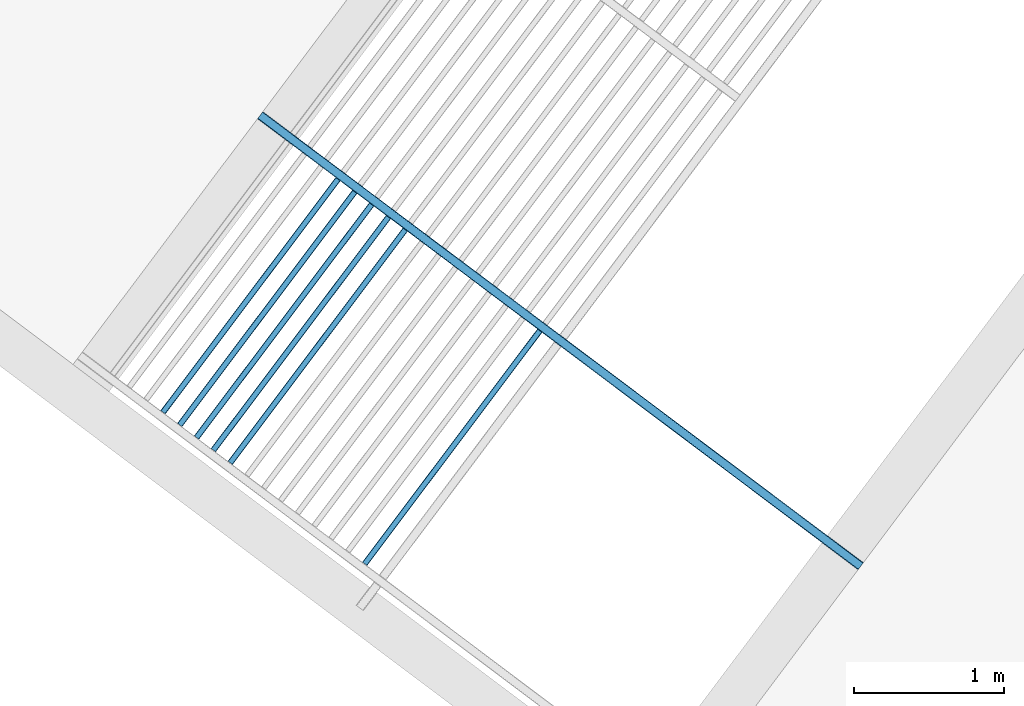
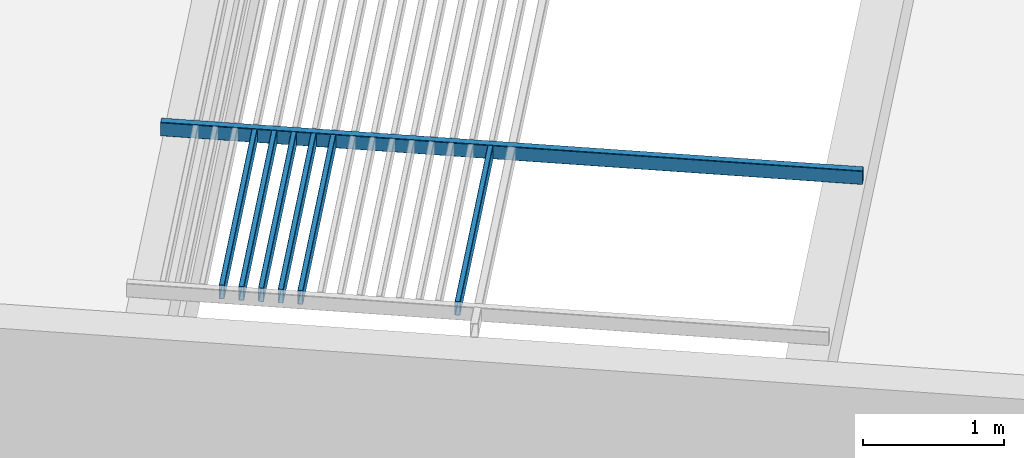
# One storey, part 6 of 95: 7 beams.
"""IFC2X3 building model written with IfcOpenShell, lengths in metres."""

from ifc_helpers import new_model, entity, si_unit, converted_unit, derived_unit, direction, frame, frame_2d, origin, place, context, subcontext, project, spatial, polyline, circle_curve, parameter, trimmed, segment, composite_curve, outline, extrude, material, type_object, element, save


model = new_model("IFC2X3")

# Units and contexts
model_context = context("Model", 3, precision=1e-05, world=origin(), true_north=direction((6.123031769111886e-17, 1.0)))
body_context = subcontext(model_context, "Body", "Model", "MODEL_VIEW")
ifc_project = project(units=[si_unit("LENGTHUNIT", "METRE"), si_unit("AREAUNIT", "SQUARE_METRE"), si_unit("VOLUMEUNIT", "CUBIC_METRE"), converted_unit("PLANEANGLEUNIT", "DEGREE", entity("IfcRatioMeasure", 0.017453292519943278), si_unit("PLANEANGLEUNIT", "RADIAN"), dimensions=[0, 0, 0, 0, 0, 0, 0]), si_unit("MASSUNIT", "GRAM", prefix="KILO"), derived_unit("MASSDENSITYUNIT", [(si_unit("MASSUNIT", "GRAM", prefix="KILO"), 1), (si_unit("LENGTHUNIT", "METRE"), -3)]), derived_unit("IONCONCENTRATIONUNIT", [(si_unit("MASSUNIT", "GRAM", prefix="KILO"), 1), (si_unit("LENGTHUNIT", "METRE"), -3)]), derived_unit("MOMENTOFINERTIAUNIT", [(si_unit("LENGTHUNIT", "METRE"), 4)]), si_unit("TIMEUNIT", "SECOND"), si_unit("FREQUENCYUNIT", "HERTZ"), si_unit("THERMODYNAMICTEMPERATUREUNIT", "DEGREE_CELSIUS"), derived_unit("THERMALTRANSMITTANCEUNIT", [(si_unit("MASSUNIT", "GRAM", prefix="KILO"), 1), (si_unit("THERMODYNAMICTEMPERATUREUNIT", "KELVIN"), -1), (si_unit("TIMEUNIT", "SECOND"), -3)]), derived_unit("THERMALCONDUCTANCEUNIT", [(si_unit("MASSUNIT", "GRAM", prefix="KILO"), 1), (si_unit("THERMODYNAMICTEMPERATUREUNIT", "KELVIN"), -1), (si_unit("TIMEUNIT", "SECOND"), -3), (si_unit("LENGTHUNIT", "METRE"), 1)]), derived_unit("VOLUMETRICFLOWRATEUNIT", [(si_unit("LENGTHUNIT", "METRE"), 3), (si_unit("TIMEUNIT", "SECOND"), -1)]), derived_unit("MASSFLOWRATEUNIT", [(si_unit("MASSUNIT", "GRAM", prefix="KILO"), 1), (si_unit("TIMEUNIT", "SECOND"), -1)]), derived_unit("ROTATIONALFREQUENCYUNIT", [(si_unit("TIMEUNIT", "SECOND"), -1)]), si_unit("ELECTRICCURRENTUNIT", "AMPERE"), si_unit("ELECTRICVOLTAGEUNIT", "VOLT"), si_unit("POWERUNIT", "WATT"), si_unit("FORCEUNIT", "NEWTON", prefix="KILO"), si_unit("ILLUMINANCEUNIT", "LUX"), si_unit("LUMINOUSFLUXUNIT", "LUMEN"), si_unit("LUMINOUSINTENSITYUNIT", "CANDELA"), derived_unit("USERDEFINED", [(si_unit("MASSUNIT", "GRAM", prefix="KILO"), -1), (si_unit("LENGTHUNIT", "METRE"), -2), (si_unit("TIMEUNIT", "SECOND"), 3), (si_unit("LUMINOUSFLUXUNIT", "LUMEN"), 1)]), derived_unit("USERDEFINED", [(si_unit("MASSUNIT", "GRAM", prefix="KILO"), 1), (si_unit("TIMEUNIT", "SECOND"), -3), (si_unit("LENGTHUNIT", "METRE"), 3), (si_unit("ELECTRICCURRENTUNIT", "AMPERE"), -2)]), derived_unit("SOUNDPOWERUNIT", [(si_unit("MASSUNIT", "GRAM", prefix="KILO"), 1), (si_unit("TIMEUNIT", "SECOND"), -3), (si_unit("LENGTHUNIT", "METRE"), 2)]), derived_unit("SOUNDPRESSUREUNIT", [(si_unit("MASSUNIT", "GRAM", prefix="KILO"), 1), (si_unit("LENGTHUNIT", "METRE"), -1), (si_unit("TIMEUNIT", "SECOND"), -2)]), derived_unit("LINEARVELOCITYUNIT", [(si_unit("LENGTHUNIT", "METRE"), 1), (si_unit("TIMEUNIT", "SECOND"), -1)]), si_unit("PRESSUREUNIT", "PASCAL"), derived_unit("USERDEFINED", [(si_unit("MASSUNIT", "GRAM", prefix="KILO"), 1), (si_unit("LENGTHUNIT", "METRE"), -2), (si_unit("TIMEUNIT", "SECOND"), -2)]), derived_unit("LINEARFORCEUNIT", [(si_unit("MASSUNIT", "GRAM", prefix="KILO"), 1), (si_unit("TIMEUNIT", "SECOND"), -2)]), derived_unit("PLANARFORCEUNIT", [(si_unit("MASSUNIT", "GRAM", prefix="KILO"), 1), (si_unit("LENGTHUNIT", "METRE"), -1), (si_unit("TIMEUNIT", "SECOND"), -2)]), derived_unit("SPECIFICHEATCAPACITYUNIT", [(si_unit("THERMODYNAMICTEMPERATUREUNIT", "KELVIN"), -1), (si_unit("LENGTHUNIT", "METRE"), 2), (si_unit("TIMEUNIT", "SECOND"), -2)]), derived_unit("HEATINGVALUEUNIT", [(si_unit("LENGTHUNIT", "METRE"), 2), (si_unit("TIMEUNIT", "SECOND"), -2)]), derived_unit("VAPORPERMEABILITYUNIT", [(si_unit("LENGTHUNIT", "METRE"), -1), (si_unit("TIMEUNIT", "SECOND"), 1)]), derived_unit("DYNAMICVISCOSITYUNIT", [(si_unit("MASSUNIT", "GRAM", prefix="KILO"), 1), (si_unit("TIMEUNIT", "SECOND"), -1), (si_unit("LENGTHUNIT", "METRE"), -1)]), derived_unit("THERMALEXPANSIONCOEFFICIENTUNIT", [(si_unit("THERMODYNAMICTEMPERATUREUNIT", "KELVIN"), -1)]), derived_unit("MODULUSOFELASTICITYUNIT", [(si_unit("MASSUNIT", "GRAM", prefix="KILO"), 1), (si_unit("LENGTHUNIT", "METRE"), -1), (si_unit("TIMEUNIT", "SECOND"), -2)]), derived_unit("ISOTHERMALMOISTURECAPACITYUNIT", [(si_unit("LENGTHUNIT", "METRE"), 3), (si_unit("MASSUNIT", "GRAM", prefix="KILO"), -1)]), derived_unit("MOISTUREDIFFUSIVITYUNIT", [(si_unit("TIMEUNIT", "SECOND"), -1), (si_unit("LENGTHUNIT", "METRE"), 2)])], contexts=[model_context])

# Site, building, storey
site_placement = place(None, origin())
site = spatial("IfcSite", under=ifc_project, at=site_placement, Name="Default", CompositionType="ELEMENT")
building_placement = place(site_placement, frame((0.0, 0.0, 235.0), z_axis=(0.0, 0.0, 1.0), x_axis=(-0.7996477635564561, 0.6004693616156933, 0.0)))
building = spatial("IfcBuilding", under=site, at=building_placement, CompositionType="ELEMENT")
storey_placement = place(building_placement, frame((0.0, 0.0, 3.400000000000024)))
storey = spatial("IfcBuildingStorey", under=building, at=storey_placement, Name="PC- Coberta STR", CompositionType="ELEMENT", Elevation=3.400000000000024)

# Beams
ifc_material = material(Name="_Acer- STR")
beam_type_1 = type_object("IfcBeamType", Name="STR- V- Acer- RHS- Rectangular- T1:120x60RHS", PredefinedType="NOTDEFINED")
beam_1_placement = place(storey_placement, frame((36.34514768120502, -20.446787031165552, 0.49840472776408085), z_axis=(0.0, 0.0, 1.0), x_axis=(-1.0, 0.0, 0.0)))
element("IfcBeam", 1, at=beam_1_placement, inside=storey, type_object=beam_type_1, material=ifc_material, Name="STR- V- Acer- RHS- Rectangular- T1:120x60RHS", ObjectType="STR- V- Acer- RHS- Rectangular- T1:120x60RHS", context=body_context, shape_type="SweptSolid", body=[
    extrude(outline(composite_curve([segment(trimmed(circle_curve(frame_2d((-0.021999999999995, -0.05200000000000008), x_axis=(1.0, 0.0)), 0.008), [parameter(180.0000000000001)], [parameter(269.99999999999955)], True, "PARAMETER"), True, "CONTINUOUS"), segment(polyline([(-0.021999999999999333, -0.05999999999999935), (0.021999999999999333, -0.05999999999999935)]), True, "CONTINUOUS"), segment(trimmed(circle_curve(frame_2d((0.022000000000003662, -0.05200000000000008), x_axis=(1.0, 0.0)), 0.008), [parameter(269.99999999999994)], [parameter(5.088887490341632e-14)], True, "PARAMETER"), True, "CONTINUOUS"), segment(polyline([(0.030000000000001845, -0.05199999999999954), (0.030000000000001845, 0.052000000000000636)]), True, "CONTINUOUS"), segment(trimmed(circle_curve(frame_2d((0.022000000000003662, 0.052000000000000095), x_axis=(1.0, 0.0)), 0.008), [parameter(359.99999999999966)], [parameter(89.99999999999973)], True, "PARAMETER"), True, "CONTINUOUS"), segment(polyline([(0.021999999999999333, 0.06000000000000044), (-0.021999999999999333, 0.06000000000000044)]), True, "CONTINUOUS"), segment(trimmed(circle_curve(frame_2d((-0.021999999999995, 0.052000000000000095), x_axis=(1.0, 0.0)), 0.008), [parameter(90.00000000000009)], [parameter(180.00000000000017)], True, "PARAMETER"), True, "CONTINUOUS"), segment(polyline([(-0.02999999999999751, 0.052000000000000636), (-0.02999999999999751, -0.05199999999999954)]), True, "CONTINUOUS")], self_intersect=False), holes=[composite_curve([segment(polyline([(0.021999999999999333, -0.056000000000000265), (-0.021999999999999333, -0.056000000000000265)]), True, "CONTINUOUS"), segment(trimmed(circle_curve(frame_2d((-0.021999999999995, -0.05200000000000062), x_axis=(1.0, 0.0)), 0.004), [parameter(179.99999999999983)], [parameter(269.9999999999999)], True, "PARAMETER"), False, "CONTINUOUS"), segment(polyline([(-0.02599999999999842, -0.05200000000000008), (-0.02599999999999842, 0.051999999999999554)]), True, "CONTINUOUS"), segment(trimmed(circle_curve(frame_2d((-0.021999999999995, 0.05199999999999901), x_axis=(1.0, 0.0)), 0.004), [parameter(90.00000000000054)], [parameter(180.00000000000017)], True, "PARAMETER"), False, "CONTINUOUS"), segment(polyline([(-0.021999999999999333, 0.055999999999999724), (0.021999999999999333, 0.055999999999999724)]), True, "CONTINUOUS"), segment(trimmed(circle_curve(frame_2d((0.022000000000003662, 0.05199999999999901), x_axis=(1.0, 0.0)), 0.004), [parameter(0.0)], [parameter(90.00000000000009)], True, "PARAMETER"), False, "CONTINUOUS"), segment(polyline([(0.02599999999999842, 0.051999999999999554), (0.02599999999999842, -0.05200000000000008)]), True, "CONTINUOUS"), segment(trimmed(circle_curve(frame_2d((0.022000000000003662, -0.05200000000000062), x_axis=(1.0, 0.0)), 0.004), [parameter(270.00000000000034)], [parameter(3.5622212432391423e-13)], True, "PARAMETER"), False, "CONTINUOUS")], self_intersect=False)]), frame((-5.0, -0.0315952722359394, 0.061595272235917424), z_axis=(1.0, 0.0, 0.0), x_axis=(0.0, -1.0, 0.0)), (0.0, 0.0, 1.0), 5.000000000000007),
])
beam_type_2 = type_object("IfcBeamType", Name="STR- V- Acer- RHS- Rectangular- T1:120x40RHS -", PredefinedType="NOTDEFINED")
beam_2_placement = place(storey_placement, frame((40.65355240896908, -20.385189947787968, 0.4984047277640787), z_axis=(0.0, 0.0, 1.0), x_axis=(0.0, -1.0, 0.0)))
element("IfcBeam", 2, at=beam_2_placement, inside=storey, type_object=beam_type_2, material=ifc_material, Name="STR- V- Acer- RHS- Rectangular- T1:120x40RHS -", ObjectType="STR- V- Acer- RHS- Rectangular- T1:120x40RHS -", context=body_context, shape_type="SweptSolid", body=[
    extrude(outline(composite_curve([segment(trimmed(circle_curve(frame_2d((-0.01400000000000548, -0.053999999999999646), x_axis=(1.0, 0.0)), 0.006), [parameter(180.0000000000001)], [parameter(269.99999999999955)], True, "PARAMETER"), True, "CONTINUOUS"), segment(polyline([(-0.01400000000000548, -0.0599999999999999), (0.013999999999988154, -0.0599999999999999)]), True, "CONTINUOUS"), segment(trimmed(circle_curve(frame_2d((0.013999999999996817, -0.053999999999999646), x_axis=(1.0, 0.0)), 0.006), [parameter(269.99999999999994)], [parameter(1.0177774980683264e-13)], True, "PARAMETER"), True, "CONTINUOUS"), segment(polyline([(0.019999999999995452, -0.053999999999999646), (0.019999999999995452, 0.05400000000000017)]), True, "CONTINUOUS"), segment(trimmed(circle_curve(frame_2d((0.013999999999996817, 0.05400000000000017), x_axis=(1.0, 0.0)), 0.006), [parameter(359.9999999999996)], [parameter(89.99999999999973)], True, "PARAMETER"), True, "CONTINUOUS"), segment(polyline([(0.013999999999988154, 0.059999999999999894), (-0.01400000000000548, 0.059999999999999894)]), True, "CONTINUOUS"), segment(trimmed(circle_curve(frame_2d((-0.01400000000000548, 0.05400000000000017), x_axis=(1.0, 0.0)), 0.006), [parameter(90.00000000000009)], [parameter(180.00000000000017)], True, "PARAMETER"), True, "CONTINUOUS"), segment(polyline([(-0.02000000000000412, 0.05400000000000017), (-0.02000000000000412, -0.05400000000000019)]), True, "CONTINUOUS")], self_intersect=False), holes=[composite_curve([segment(polyline([(0.013999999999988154, -0.05700000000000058), (-0.01400000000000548, -0.05700000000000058)]), True, "CONTINUOUS"), segment(trimmed(circle_curve(frame_2d((-0.01400000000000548, -0.05400000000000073), x_axis=(1.0, 0.0)), 0.003), [parameter(179.99999999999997)], [parameter(269.9999999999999)], True, "PARAMETER"), False, "CONTINUOUS"), segment(polyline([(-0.017000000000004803, -0.05400000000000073), (-0.017000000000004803, 0.05399999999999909)]), True, "CONTINUOUS"), segment(trimmed(circle_curve(frame_2d((-0.01400000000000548, 0.05399999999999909), x_axis=(1.0, 0.0)), 0.003), [parameter(90.00000000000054)], [parameter(180.0000000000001)], True, "PARAMETER"), False, "CONTINUOUS"), segment(polyline([(-0.01400000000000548, 0.056999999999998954), (0.013999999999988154, 0.056999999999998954)]), True, "CONTINUOUS"), segment(trimmed(circle_curve(frame_2d((0.013999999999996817, 0.05399999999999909), x_axis=(1.0, 0.0)), 0.003), [parameter(0.0)], [parameter(90.00000000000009)], True, "PARAMETER"), False, "CONTINUOUS"), segment(polyline([(0.016999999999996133, 0.05399999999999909), (0.016999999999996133, -0.05400000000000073)]), True, "CONTINUOUS"), segment(trimmed(circle_curve(frame_2d((0.013999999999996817, -0.05400000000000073), x_axis=(1.0, 0.0)), 0.003), [parameter(270.00000000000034)], [parameter(3.053332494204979e-13)], True, "PARAMETER"), False, "CONTINUOUS")], self_intersect=False)]), frame((-1.940000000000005, 0.02159527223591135, 0.06159527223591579), z_axis=(1.0, 0.0, 0.0), x_axis=(0.0, -1.0, 0.0)), (0.0, 0.0, 1.0), 1.9400000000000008),
])
beam_3_placement = place(storey_placement, frame((40.51355240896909, -20.385189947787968, 0.4984047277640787), z_axis=(0.0, 0.0, 1.0), x_axis=(0.0, -1.0, 0.0)))
element("IfcBeam", 3, at=beam_3_placement, inside=storey, type_object=beam_type_2, material=ifc_material, Name="STR- V- Acer- RHS- Rectangular- T1:120x40RHS -", ObjectType="STR- V- Acer- RHS- Rectangular- T1:120x40RHS -", context=body_context, shape_type="SweptSolid", body=[
    extrude(outline(composite_curve([segment(trimmed(circle_curve(frame_2d((-0.01399999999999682, -0.053999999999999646), x_axis=(1.0, 0.0)), 0.006), [parameter(180.0000000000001)], [parameter(269.99999999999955)], True, "PARAMETER"), True, "CONTINUOUS"), segment(polyline([(-0.01399999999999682, -0.0599999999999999), (0.013999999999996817, -0.0599999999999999)]), True, "CONTINUOUS"), segment(trimmed(circle_curve(frame_2d((0.014000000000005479, -0.053999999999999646), x_axis=(1.0, 0.0)), 0.006), [parameter(269.99999999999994)], [parameter(1.0177774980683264e-13)], True, "PARAMETER"), True, "CONTINUOUS"), segment(polyline([(0.020000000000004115, -0.053999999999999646), (0.020000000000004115, 0.05400000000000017)]), True, "CONTINUOUS"), segment(trimmed(circle_curve(frame_2d((0.014000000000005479, 0.05400000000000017), x_axis=(1.0, 0.0)), 0.006), [parameter(359.9999999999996)], [parameter(89.99999999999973)], True, "PARAMETER"), True, "CONTINUOUS"), segment(polyline([(0.013999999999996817, 0.059999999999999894), (-0.01399999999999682, 0.059999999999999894)]), True, "CONTINUOUS"), segment(trimmed(circle_curve(frame_2d((-0.01399999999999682, 0.05400000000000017), x_axis=(1.0, 0.0)), 0.006), [parameter(90.00000000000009)], [parameter(180.00000000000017)], True, "PARAMETER"), True, "CONTINUOUS"), segment(polyline([(-0.019999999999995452, 0.05400000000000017), (-0.019999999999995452, -0.05400000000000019)]), True, "CONTINUOUS")], self_intersect=False), holes=[composite_curve([segment(polyline([(0.013999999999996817, -0.05700000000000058), (-0.01399999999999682, -0.05700000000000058)]), True, "CONTINUOUS"), segment(trimmed(circle_curve(frame_2d((-0.01399999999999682, -0.05400000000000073), x_axis=(1.0, 0.0)), 0.003), [parameter(179.99999999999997)], [parameter(269.9999999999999)], True, "PARAMETER"), False, "CONTINUOUS"), segment(polyline([(-0.016999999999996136, -0.05400000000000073), (-0.016999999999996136, 0.05399999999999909)]), True, "CONTINUOUS"), segment(trimmed(circle_curve(frame_2d((-0.01399999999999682, 0.05399999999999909), x_axis=(1.0, 0.0)), 0.003), [parameter(90.00000000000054)], [parameter(180.0000000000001)], True, "PARAMETER"), False, "CONTINUOUS"), segment(polyline([(-0.01399999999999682, 0.056999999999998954), (0.013999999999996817, 0.056999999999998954)]), True, "CONTINUOUS"), segment(trimmed(circle_curve(frame_2d((0.014000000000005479, 0.05399999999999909), x_axis=(1.0, 0.0)), 0.003), [parameter(0.0)], [parameter(90.00000000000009)], True, "PARAMETER"), False, "CONTINUOUS"), segment(polyline([(0.017000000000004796, 0.05399999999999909), (0.017000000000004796, -0.05400000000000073)]), True, "CONTINUOUS"), segment(trimmed(circle_curve(frame_2d((0.014000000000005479, -0.05400000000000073), x_axis=(1.0, 0.0)), 0.003), [parameter(270.00000000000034)], [parameter(3.053332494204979e-13)], True, "PARAMETER"), False, "CONTINUOUS")], self_intersect=False)]), frame((-1.940000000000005, 0.02159527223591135, 0.06159527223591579), z_axis=(1.0, 0.0, 0.0), x_axis=(0.0, -1.0, 0.0)), (0.0, 0.0, 1.0), 1.9400000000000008),
])
beam_4_placement = place(storey_placement, frame((40.37355240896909, -20.385189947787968, 0.4984047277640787), z_axis=(0.0, 0.0, 1.0), x_axis=(0.0, -1.0, 0.0)))
element("IfcBeam", 4, at=beam_4_placement, inside=storey, type_object=beam_type_2, material=ifc_material, Name="STR- V- Acer- RHS- Rectangular- T1:120x40RHS -", ObjectType="STR- V- Acer- RHS- Rectangular- T1:120x40RHS -", context=body_context, shape_type="SweptSolid", body=[
    extrude(outline(composite_curve([segment(trimmed(circle_curve(frame_2d((-0.01400000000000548, -0.053999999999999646), x_axis=(1.0, 0.0)), 0.006), [parameter(180.0000000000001)], [parameter(269.99999999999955)], True, "PARAMETER"), True, "CONTINUOUS"), segment(polyline([(-0.01400000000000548, -0.0599999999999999), (0.013999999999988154, -0.0599999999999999)]), True, "CONTINUOUS"), segment(trimmed(circle_curve(frame_2d((0.013999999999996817, -0.053999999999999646), x_axis=(1.0, 0.0)), 0.006), [parameter(269.99999999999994)], [parameter(1.0177774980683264e-13)], True, "PARAMETER"), True, "CONTINUOUS"), segment(polyline([(0.019999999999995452, -0.053999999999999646), (0.019999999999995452, 0.05400000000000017)]), True, "CONTINUOUS"), segment(trimmed(circle_curve(frame_2d((0.013999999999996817, 0.05400000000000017), x_axis=(1.0, 0.0)), 0.006), [parameter(359.9999999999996)], [parameter(89.99999999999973)], True, "PARAMETER"), True, "CONTINUOUS"), segment(polyline([(0.013999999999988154, 0.059999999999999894), (-0.01400000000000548, 0.059999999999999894)]), True, "CONTINUOUS"), segment(trimmed(circle_curve(frame_2d((-0.01400000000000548, 0.05400000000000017), x_axis=(1.0, 0.0)), 0.006), [parameter(90.00000000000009)], [parameter(180.00000000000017)], True, "PARAMETER"), True, "CONTINUOUS"), segment(polyline([(-0.02000000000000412, 0.05400000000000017), (-0.02000000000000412, -0.05400000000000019)]), True, "CONTINUOUS")], self_intersect=False), holes=[composite_curve([segment(polyline([(0.013999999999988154, -0.05700000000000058), (-0.01400000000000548, -0.05700000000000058)]), True, "CONTINUOUS"), segment(trimmed(circle_curve(frame_2d((-0.01400000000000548, -0.05400000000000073), x_axis=(1.0, 0.0)), 0.003), [parameter(179.99999999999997)], [parameter(269.9999999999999)], True, "PARAMETER"), False, "CONTINUOUS"), segment(polyline([(-0.017000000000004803, -0.05400000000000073), (-0.017000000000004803, 0.05399999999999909)]), True, "CONTINUOUS"), segment(trimmed(circle_curve(frame_2d((-0.01400000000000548, 0.05399999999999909), x_axis=(1.0, 0.0)), 0.003), [parameter(90.00000000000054)], [parameter(180.0000000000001)], True, "PARAMETER"), False, "CONTINUOUS"), segment(polyline([(-0.01400000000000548, 0.056999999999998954), (0.013999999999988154, 0.056999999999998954)]), True, "CONTINUOUS"), segment(trimmed(circle_curve(frame_2d((0.013999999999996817, 0.05399999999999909), x_axis=(1.0, 0.0)), 0.003), [parameter(0.0)], [parameter(90.00000000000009)], True, "PARAMETER"), False, "CONTINUOUS"), segment(polyline([(0.016999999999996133, 0.05399999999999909), (0.016999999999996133, -0.05400000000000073)]), True, "CONTINUOUS"), segment(trimmed(circle_curve(frame_2d((0.013999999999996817, -0.05400000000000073), x_axis=(1.0, 0.0)), 0.003), [parameter(270.00000000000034)], [parameter(3.053332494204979e-13)], True, "PARAMETER"), False, "CONTINUOUS")], self_intersect=False)]), frame((-1.940000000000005, 0.02159527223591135, 0.06159527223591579), z_axis=(1.0, 0.0, 0.0), x_axis=(0.0, -1.0, 0.0)), (0.0, 0.0, 1.0), 1.9400000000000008),
])
beam_5_placement = place(storey_placement, frame((40.23355240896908, -20.385189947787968, 0.4984047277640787), z_axis=(0.0, 0.0, 1.0), x_axis=(0.0, -1.0, 0.0)))
element("IfcBeam", 5, at=beam_5_placement, inside=storey, type_object=beam_type_2, material=ifc_material, Name="STR- V- Acer- RHS- Rectangular- T1:120x40RHS -", ObjectType="STR- V- Acer- RHS- Rectangular- T1:120x40RHS -", context=body_context, shape_type="SweptSolid", body=[
    extrude(outline(composite_curve([segment(trimmed(circle_curve(frame_2d((-0.01400000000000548, -0.053999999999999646), x_axis=(1.0, 0.0)), 0.006), [parameter(180.0000000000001)], [parameter(269.99999999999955)], True, "PARAMETER"), True, "CONTINUOUS"), segment(polyline([(-0.01400000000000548, -0.0599999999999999), (0.013999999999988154, -0.0599999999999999)]), True, "CONTINUOUS"), segment(trimmed(circle_curve(frame_2d((0.013999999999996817, -0.053999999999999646), x_axis=(1.0, 0.0)), 0.006), [parameter(269.99999999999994)], [parameter(1.0177774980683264e-13)], True, "PARAMETER"), True, "CONTINUOUS"), segment(polyline([(0.019999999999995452, -0.053999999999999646), (0.019999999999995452, 0.05400000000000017)]), True, "CONTINUOUS"), segment(trimmed(circle_curve(frame_2d((0.013999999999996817, 0.05400000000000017), x_axis=(1.0, 0.0)), 0.006), [parameter(359.9999999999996)], [parameter(89.99999999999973)], True, "PARAMETER"), True, "CONTINUOUS"), segment(polyline([(0.013999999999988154, 0.059999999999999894), (-0.01400000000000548, 0.059999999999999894)]), True, "CONTINUOUS"), segment(trimmed(circle_curve(frame_2d((-0.01400000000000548, 0.05400000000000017), x_axis=(1.0, 0.0)), 0.006), [parameter(90.00000000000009)], [parameter(180.00000000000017)], True, "PARAMETER"), True, "CONTINUOUS"), segment(polyline([(-0.02000000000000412, 0.05400000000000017), (-0.02000000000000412, -0.05400000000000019)]), True, "CONTINUOUS")], self_intersect=False), holes=[composite_curve([segment(polyline([(0.013999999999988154, -0.05700000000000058), (-0.01400000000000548, -0.05700000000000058)]), True, "CONTINUOUS"), segment(trimmed(circle_curve(frame_2d((-0.01400000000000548, -0.05400000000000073), x_axis=(1.0, 0.0)), 0.003), [parameter(179.99999999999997)], [parameter(269.9999999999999)], True, "PARAMETER"), False, "CONTINUOUS"), segment(polyline([(-0.017000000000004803, -0.05400000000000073), (-0.017000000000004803, 0.05399999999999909)]), True, "CONTINUOUS"), segment(trimmed(circle_curve(frame_2d((-0.01400000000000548, 0.05399999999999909), x_axis=(1.0, 0.0)), 0.003), [parameter(90.00000000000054)], [parameter(180.0000000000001)], True, "PARAMETER"), False, "CONTINUOUS"), segment(polyline([(-0.01400000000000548, 0.056999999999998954), (0.013999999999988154, 0.056999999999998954)]), True, "CONTINUOUS"), segment(trimmed(circle_curve(frame_2d((0.013999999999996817, 0.05399999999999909), x_axis=(1.0, 0.0)), 0.003), [parameter(0.0)], [parameter(90.00000000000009)], True, "PARAMETER"), False, "CONTINUOUS"), segment(polyline([(0.016999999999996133, 0.05399999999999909), (0.016999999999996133, -0.05400000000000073)]), True, "CONTINUOUS"), segment(trimmed(circle_curve(frame_2d((0.013999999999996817, -0.05400000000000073), x_axis=(1.0, 0.0)), 0.003), [parameter(270.00000000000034)], [parameter(3.053332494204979e-13)], True, "PARAMETER"), False, "CONTINUOUS")], self_intersect=False)]), frame((-1.940000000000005, 0.02159527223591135, 0.06159527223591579), z_axis=(1.0, 0.0, 0.0), x_axis=(0.0, -1.0, 0.0)), (0.0, 0.0, 1.0), 1.9400000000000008),
])
beam_6_placement = place(storey_placement, frame((40.09355240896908, -20.385189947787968, 0.4984047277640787), z_axis=(0.0, 0.0, 1.0), x_axis=(0.0, -1.0, 0.0)))
element("IfcBeam", 6, at=beam_6_placement, inside=storey, type_object=beam_type_2, material=ifc_material, Name="STR- V- Acer- RHS- Rectangular- T1:120x40RHS -", ObjectType="STR- V- Acer- RHS- Rectangular- T1:120x40RHS -", context=body_context, shape_type="SweptSolid", body=[
    extrude(outline(composite_curve([segment(trimmed(circle_curve(frame_2d((-0.01400000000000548, -0.053999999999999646), x_axis=(1.0, 0.0)), 0.006), [parameter(180.0000000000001)], [parameter(269.99999999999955)], True, "PARAMETER"), True, "CONTINUOUS"), segment(polyline([(-0.01400000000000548, -0.0599999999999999), (0.013999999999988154, -0.0599999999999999)]), True, "CONTINUOUS"), segment(trimmed(circle_curve(frame_2d((0.013999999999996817, -0.053999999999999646), x_axis=(1.0, 0.0)), 0.006), [parameter(269.99999999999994)], [parameter(1.0177774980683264e-13)], True, "PARAMETER"), True, "CONTINUOUS"), segment(polyline([(0.019999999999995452, -0.053999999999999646), (0.019999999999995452, 0.05400000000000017)]), True, "CONTINUOUS"), segment(trimmed(circle_curve(frame_2d((0.013999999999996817, 0.05400000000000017), x_axis=(1.0, 0.0)), 0.006), [parameter(359.9999999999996)], [parameter(89.99999999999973)], True, "PARAMETER"), True, "CONTINUOUS"), segment(polyline([(0.013999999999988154, 0.059999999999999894), (-0.01400000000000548, 0.059999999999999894)]), True, "CONTINUOUS"), segment(trimmed(circle_curve(frame_2d((-0.01400000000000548, 0.05400000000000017), x_axis=(1.0, 0.0)), 0.006), [parameter(90.00000000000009)], [parameter(180.00000000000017)], True, "PARAMETER"), True, "CONTINUOUS"), segment(polyline([(-0.02000000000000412, 0.05400000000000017), (-0.02000000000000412, -0.05400000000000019)]), True, "CONTINUOUS")], self_intersect=False), holes=[composite_curve([segment(polyline([(0.013999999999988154, -0.05700000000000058), (-0.01400000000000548, -0.05700000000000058)]), True, "CONTINUOUS"), segment(trimmed(circle_curve(frame_2d((-0.01400000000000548, -0.05400000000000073), x_axis=(1.0, 0.0)), 0.003), [parameter(179.99999999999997)], [parameter(269.9999999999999)], True, "PARAMETER"), False, "CONTINUOUS"), segment(polyline([(-0.017000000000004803, -0.05400000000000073), (-0.017000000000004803, 0.05399999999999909)]), True, "CONTINUOUS"), segment(trimmed(circle_curve(frame_2d((-0.01400000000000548, 0.05399999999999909), x_axis=(1.0, 0.0)), 0.003), [parameter(90.00000000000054)], [parameter(180.0000000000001)], True, "PARAMETER"), False, "CONTINUOUS"), segment(polyline([(-0.01400000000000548, 0.056999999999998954), (0.013999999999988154, 0.056999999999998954)]), True, "CONTINUOUS"), segment(trimmed(circle_curve(frame_2d((0.013999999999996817, 0.05399999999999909), x_axis=(1.0, 0.0)), 0.003), [parameter(0.0)], [parameter(90.00000000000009)], True, "PARAMETER"), False, "CONTINUOUS"), segment(polyline([(0.016999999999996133, 0.05399999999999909), (0.016999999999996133, -0.05400000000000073)]), True, "CONTINUOUS"), segment(trimmed(circle_curve(frame_2d((0.013999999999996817, -0.05400000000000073), x_axis=(1.0, 0.0)), 0.003), [parameter(270.00000000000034)], [parameter(3.053332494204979e-13)], True, "PARAMETER"), False, "CONTINUOUS")], self_intersect=False)]), frame((-1.940000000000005, 0.02159527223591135, 0.06159527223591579), z_axis=(1.0, 0.0, 0.0), x_axis=(0.0, -1.0, 0.0)), (0.0, 0.0, 1.0), 1.9400000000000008),
])
beam_7_placement = place(storey_placement, frame((38.9735524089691, -20.385189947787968, 0.4984047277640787), z_axis=(0.0, 0.0, 1.0), x_axis=(0.0, -1.0, 0.0)))
element("IfcBeam", 7, at=beam_7_placement, inside=storey, type_object=beam_type_2, material=ifc_material, Name="STR- V- Acer- RHS- Rectangular- T1:120x40RHS -", ObjectType="STR- V- Acer- RHS- Rectangular- T1:120x40RHS -", context=body_context, shape_type="SweptSolid", body=[
    extrude(outline(composite_curve([segment(trimmed(circle_curve(frame_2d((-0.01400000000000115, -0.053999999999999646), x_axis=(1.0, 0.0)), 0.006), [parameter(180.0000000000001)], [parameter(269.99999999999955)], True, "PARAMETER"), True, "CONTINUOUS"), segment(polyline([(-0.01400000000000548, -0.0599999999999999), (0.013999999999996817, -0.0599999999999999)]), True, "CONTINUOUS"), segment(trimmed(circle_curve(frame_2d((0.013999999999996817, -0.053999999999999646), x_axis=(1.0, 0.0)), 0.006), [parameter(269.99999999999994)], [parameter(1.0177774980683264e-13)], True, "PARAMETER"), True, "CONTINUOUS"), segment(polyline([(0.019999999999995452, -0.053999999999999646), (0.019999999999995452, 0.05400000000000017)]), True, "CONTINUOUS"), segment(trimmed(circle_curve(frame_2d((0.013999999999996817, 0.05400000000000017), x_axis=(1.0, 0.0)), 0.006), [parameter(359.9999999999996)], [parameter(89.99999999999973)], True, "PARAMETER"), True, "CONTINUOUS"), segment(polyline([(0.013999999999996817, 0.059999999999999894), (-0.01400000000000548, 0.059999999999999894)]), True, "CONTINUOUS"), segment(trimmed(circle_curve(frame_2d((-0.01400000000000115, 0.05400000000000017), x_axis=(1.0, 0.0)), 0.006), [parameter(90.00000000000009)], [parameter(180.00000000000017)], True, "PARAMETER"), True, "CONTINUOUS"), segment(polyline([(-0.01999999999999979, 0.05400000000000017), (-0.01999999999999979, -0.05400000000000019)]), True, "CONTINUOUS")], self_intersect=False), holes=[composite_curve([segment(polyline([(0.013999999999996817, -0.05700000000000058), (-0.01400000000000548, -0.05700000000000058)]), True, "CONTINUOUS"), segment(trimmed(circle_curve(frame_2d((-0.01400000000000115, -0.05400000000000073), x_axis=(1.0, 0.0)), 0.003), [parameter(179.99999999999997)], [parameter(269.9999999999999)], True, "PARAMETER"), False, "CONTINUOUS"), segment(polyline([(-0.017000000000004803, -0.05400000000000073), (-0.017000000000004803, 0.05399999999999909)]), True, "CONTINUOUS"), segment(trimmed(circle_curve(frame_2d((-0.01400000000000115, 0.05399999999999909), x_axis=(1.0, 0.0)), 0.003), [parameter(90.00000000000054)], [parameter(180.0000000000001)], True, "PARAMETER"), False, "CONTINUOUS"), segment(polyline([(-0.01400000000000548, 0.056999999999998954), (0.013999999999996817, 0.056999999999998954)]), True, "CONTINUOUS"), segment(trimmed(circle_curve(frame_2d((0.013999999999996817, 0.05399999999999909), x_axis=(1.0, 0.0)), 0.003), [parameter(0.0)], [parameter(90.00000000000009)], True, "PARAMETER"), False, "CONTINUOUS"), segment(polyline([(0.016999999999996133, 0.05399999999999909), (0.016999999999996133, -0.05400000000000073)]), True, "CONTINUOUS"), segment(trimmed(circle_curve(frame_2d((0.013999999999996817, -0.05400000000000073), x_axis=(1.0, 0.0)), 0.003), [parameter(270.00000000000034)], [parameter(3.053332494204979e-13)], True, "PARAMETER"), False, "CONTINUOUS")], self_intersect=False)]), frame((-1.940000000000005, 0.02159527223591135, 0.06159527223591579), z_axis=(1.0, 0.0, 0.0), x_axis=(0.0, -1.0, 0.0)), (0.0, 0.0, 1.0), 1.9400000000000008),
])

save(model, "model.ifc")
